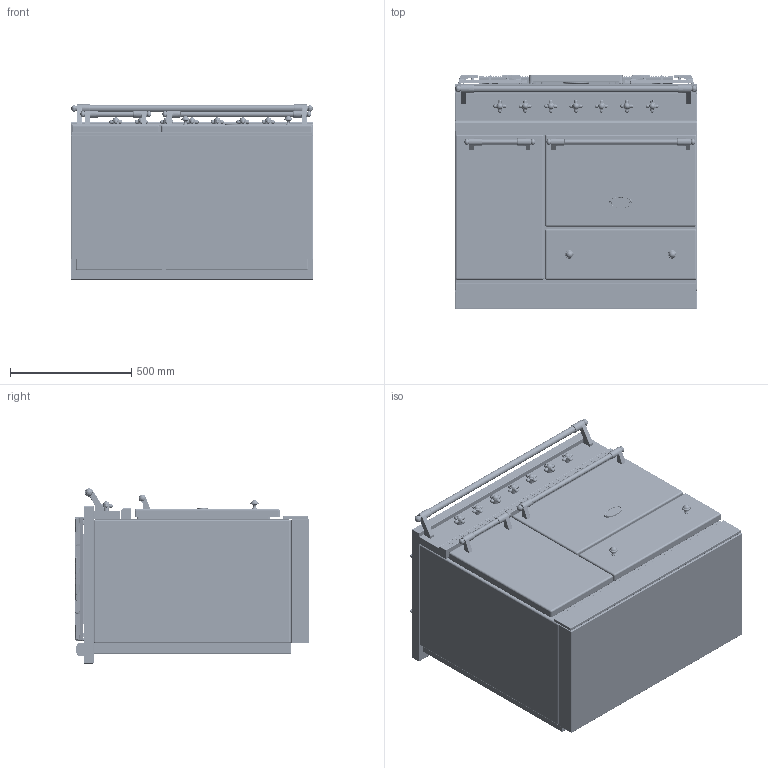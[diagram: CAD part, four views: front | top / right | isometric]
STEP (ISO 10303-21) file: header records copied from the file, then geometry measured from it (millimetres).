
FILE_DESCRIPTION((''),'2;1');
FILE_NAME('VUES_DXF_ASM','2021-12-02T07:46:18',('r.avril'),(''),'CREO PARAMETRIC BY PTC INC, 2017260','CREO PARAMETRIC BY PTC INC, 2017260','');
FILE_SCHEMA(('AP203_CONFIGURATION_CONTROLLED_3D_DESIGN_OF_MECHANICAL_PARTS_AND_ASSEMBLIES_MIM_LF { 1 0 10303 403 2 1 2 }'));
Products named in the file (28): BASE_EXPORT_VOLNAY; 65650003; 65650004; 6531940; 6531941; 6531943; 65049009; 65650001; 6538399; 1931942; 65080022_AF0; 6531942_ASM; BASE_EXPORT_VOLNAY_ASM; TABLE_1000_CLASSIQUE; 3KW; 5KW; 1_5KW; 4KW; 65062008; 65062012; 65149005; 90000549_ASM; 6537024; 90000487_ASM; CHEMINEE_2020_LG371_EXPORT_STEP; TABLE_1000_TRADITION_ASM; LCF1051_VOLNAY_ASM; VUES_DXF_ASM
Assembly tree (46 placements, depth 5):
  VUES_DXF_ASM
    LCF1051_VOLNAY_ASM
      BASE_EXPORT_VOLNAY_ASM
        BASE_EXPORT_VOLNAY
        65650003
        65650004
        6531940  x2
        6531941  x2
        6531943  x2
        65049009
        65650001
        6531942_ASM  x7
          6538399
          1931942
          65080022_AF0
      TABLE_1000_TRADITION_ASM
        TABLE_1000_CLASSIQUE
        3KW  x2
        5KW
        1_5KW
        4KW
        90000549_ASM
          65062008
          65062012
          65149005  x4
        90000487_ASM  x2
          6537024
          65149005
        CHEMINEE_2020_LG371_EXPORT_STEP  x2
Bounding box: 1000 x 967 x 724 mm (x, y, z)
Volume: 535083153.1 mm3; surface area: 9096736.1 mm2
Topology: 63 solids, 71 shells, 8752 faces, 22698 edges, 14075 vertices
Faces by surface type: plane 4163, cylinder 2366, bspline 1004, torus 337, sphere 320, cone 312, extrusion 238, revolution 12
Entity records: 216830 total; most frequent: CARTESIAN_POINT 58350, ORIENTED_EDGE 26088, DIRECTION 23866, EDGE_CURVE 13054, PRESENTATION_STYLE_ASSIGNMENT 9434, STYLED_ITEM 9411, CURVE_STYLE 9200, VECTOR 8526
